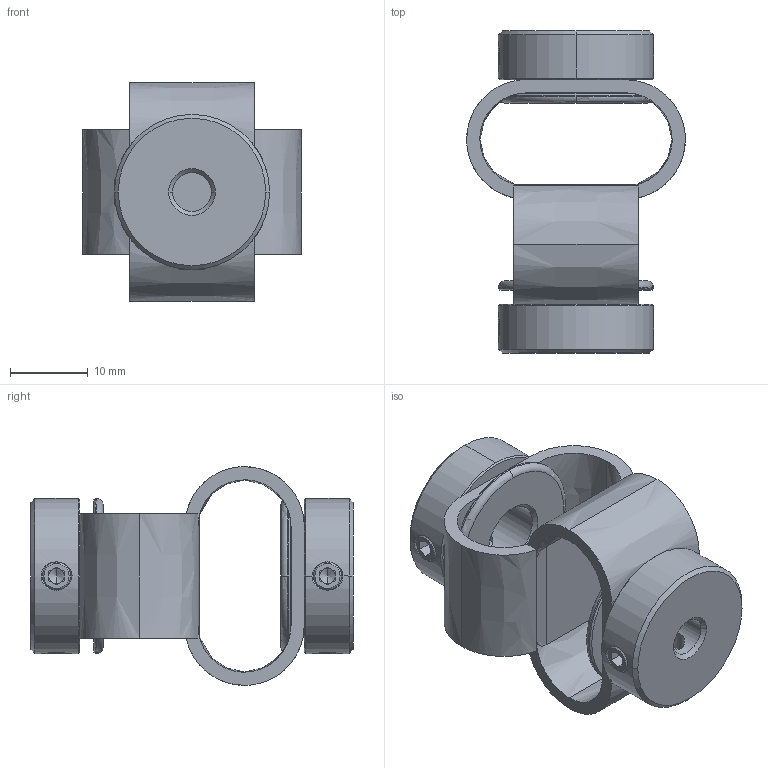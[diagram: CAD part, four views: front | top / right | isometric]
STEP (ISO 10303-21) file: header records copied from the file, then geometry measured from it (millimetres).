
FILE_DESCRIPTION (( 'STEP AP203' ), '1' );
FILE_NAME ('LS-D-D27L40-5-8.STEP', '2021-10-28T06:10:08', ( '' ), ( '' ), 'SwSTEP 2.0', 'SolidWorks 2018', '' );
FILE_SCHEMA (( 'CONFIG_CONTROL_DESIGN' ));
Length unit declared in the file: millimetre
Products named in the file (1): LS-D-D27L40-5-8
Bounding box: 28.2 x 41.54 x 28.2 mm (x, y, z)
Volume: 7192 mm3; surface area: 6685.6 mm2
Topology: 1 solids, 1 shells, 190 faces, 490 edges, 306 vertices
Faces by surface type: plane 86, cone 54, cylinder 30, bspline 16, torus 4
Entity records: 7771 total; most frequent: CARTESIAN_POINT 3213, ORIENTED_EDGE 964, DIRECTION 886, EDGE_CURVE 482, AXIS2_PLACEMENT_3D 345, VERTEX_POINT 306, EDGE_LOOP 218, VECTOR 196
